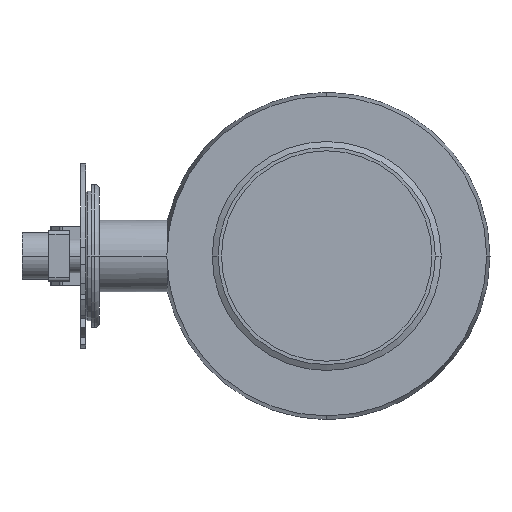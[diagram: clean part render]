
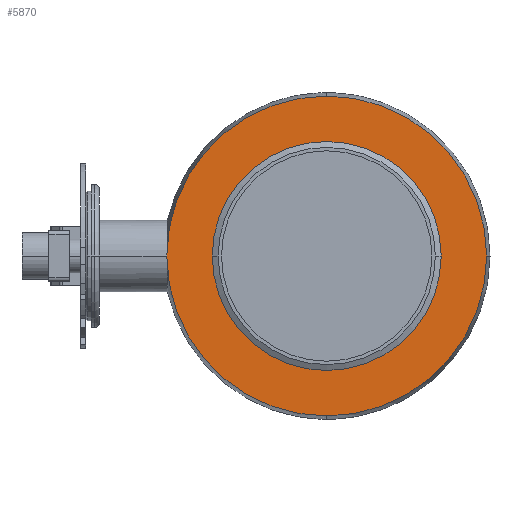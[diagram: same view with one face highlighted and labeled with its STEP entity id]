
A CAD part, left-side view. The second image highlights one B-rep face of the part: STEP entity #5870.
In plain terms, the highlighted planar face has unit normal (-1, 0, 0) as drawn and (1, 0, 0) by its records, which use the part's own axes.
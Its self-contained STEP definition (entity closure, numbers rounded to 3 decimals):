
#5390=CARTESIAN_POINT('',(67.273,62.398,0.));
#5400=VERTEX_POINT('',#5390);
#5480=CARTESIAN_POINT('',(67.273,-127.602,
0.));
#5490=VERTEX_POINT('',#5480);
#5520=CARTESIAN_POINT('',(67.273,-32.602,0.));
#5530=DIRECTION('',(-1.,0.,0.));
#5540=DIRECTION('',(0.,1.,0.));
#5550=AXIS2_PLACEMENT_3D('',#5520,#5530,#5540);
#5560=CIRCLE('',#5550,95.);
#5570=EDGE_CURVE('',#5400,#5490,#5560,.T.);
#5620=CARTESIAN_POINT('',(67.273,58.898,0.));
#5630=DIRECTION('',(1.,0.,0.));
#5640=DIRECTION('',(0.,1.,0.));
#5650=AXIS2_PLACEMENT_3D('',#5620,#5630,#5640);
#5660=PLANE('',#5650);
#5670=CARTESIAN_POINT('',(67.273,-32.602,0.));
#5680=DIRECTION('',(-1.,0.,0.));
#5690=DIRECTION('',(0.,1.,0.));
#5700=AXIS2_PLACEMENT_3D('',#5670,#5680,#5690);
#5710=CIRCLE('',#5700,68.);
#5720=CARTESIAN_POINT('',(67.273,-100.602,
0.));
#5730=VERTEX_POINT('',#5720);
#5740=CARTESIAN_POINT('',(67.273,35.398,0.));
#5750=VERTEX_POINT('',#5740);
#5760=EDGE_CURVE('',#5730,#5750,#5710,.T.);
#5770=ORIENTED_EDGE('',*,*,#5760,.T.);
#5780=EDGE_CURVE('',#5750,#5730,#5710,.T.);
#5790=ORIENTED_EDGE('',*,*,#5780,.T.);
#5800=EDGE_LOOP('',(#5790,#5770));
#5810=FACE_BOUND('',#5800,.T.);
#5820=EDGE_CURVE('',#5490,#5400,#5560,.T.);
#5830=ORIENTED_EDGE('',*,*,#5820,.F.);
#5840=ORIENTED_EDGE('',*,*,#5570,.F.);
#5850=EDGE_LOOP('',(#5840,#5830));
#5860=FACE_OUTER_BOUND('',#5850,.T.);
#5870=ADVANCED_FACE('',(#5810,#5860),#5660,.T.);
